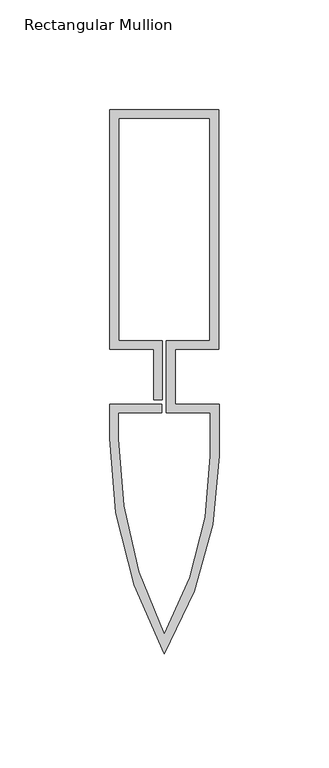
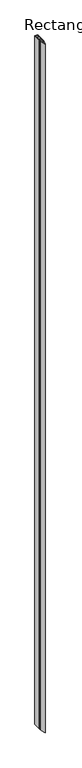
"""IFC4 building model written with IfcOpenShell, lengths in millimetres: member geometry, Rectangular Mullion : Reynaers_CW-50_Mullion-Transom_Horizontal_109.4mm_Facecap-05."""

from ifc_helpers import new_model, si_unit, point, frame, frame_2d, origin, place, context, project, spatial, polyline, circle_curve, trimmed, segment, composite_curve, outline, extrude, source, transform, mapped, element, save


def rectangular_mullion_342bc9f6(model_context):
    return source(origin(), model_context, "Body", "SweptSolid", [
        extrude(outline(composite_curve([segment(polyline([(-24.8004059, 121.9), (24.8004059, 121.9), (24.8004059, 12.5), (4.9004059, 12.5), (4.9004059, -12.5), (24.994845, -12.5), (24.994845, -36.0195976)]), True, "CONTINUOUS"), segment(trimmed(circle_curve(frame_2d((-151.2704106, -36.0195976)), 176.2652556), [point((24.994845, -36.0195976))], [point((0.0, -126.5))], False, "CARTESIAN"), True, "CONTINUOUS"), segment(trimmed(circle_curve(frame_2d((181.1469577, -28.111878)), 206.1418028), [point((0.0, -126.5))], [point((-24.994845, -28.111878))], False, "CARTESIAN"), True, "CONTINUOUS"), segment(polyline([(-24.994845, -28.111878), (-24.994845, -12.5), (-1.0995941, -12.5), (-1.0995941, -16.5), (-20.994845, -16.5), (-20.994845, -28.2355063)]), True, "CONTINUOUS"), segment(trimmed(circle_curve(frame_2d((179.2670132, -28.2355063)), 200.2618582), [point((-20.994845, -28.2355063))], [point((0.0, -117.5))], True, "CARTESIAN"), True, "CONTINUOUS"), segment(trimmed(circle_curve(frame_2d((-147.4777527, -36.0547506)), 168.4725977), [point((0.0, -117.5))], [point((20.994845, -36.0547506))], True, "CARTESIAN"), True, "CONTINUOUS"), segment(polyline([(20.994845, -36.0547506), (20.994845, -16.5), (0.9004059, -16.5), (0.9004059, 16.5), (20.8004059, 16.5), (20.8004059, 117.9), (-20.8004059, 117.9), (-20.8004059, 16.5), (-0.9004059, 16.5), (-0.9004059, -10.5), (-4.9004059, -10.5), (-4.9004059, 12.5), (-24.8004059, 12.5), (-24.8004059, 121.9)]), True, "CONTINUOUS")], self_intersect=False)), frame((0.0, 0.0, -12000.0), z_axis=(0.0, 0.0, 1.0), x_axis=(1.0, 0.0, 0.0)), (0.0, 0.0, 1.0), 12000.0),
    ])


if __name__ == "__main__":
    model = new_model("IFC4")
    model_context = context("Model", 3, world=origin())
    ifc_project = project(units=[si_unit("LENGTHUNIT", "METRE", prefix="MILLI")], contexts=[model_context])
    site = spatial("IfcSite", under=ifc_project)
    building = spatial("IfcBuilding", under=site)
    placement = place(None, origin())
    rectangular_mullion_shape = rectangular_mullion_342bc9f6(model_context)
    element("IfcMember", 1, ObjectType="Rectangular Mullion : Reynaers_CW-50_Mullion-Transom_Horizontal_109.4mm_Facecap-05", at=placement, inside=building, context=model_context, shape_type="MappedRepresentation", body=[
        mapped(rectangular_mullion_shape, transform((0.0, 0.0, 0.0), x_axis=(1.0, 0.0, 0.0), y_axis=(0.0, 1.0, 0.0), z_axis=(0.0, 0.0, 1.0))),
    ])
    save(model, "model.ifc")
